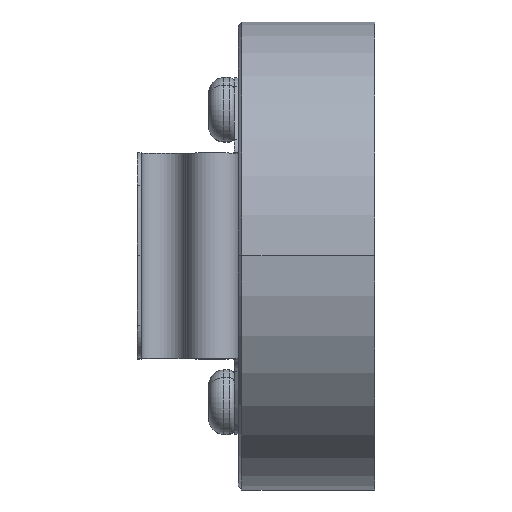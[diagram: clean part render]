
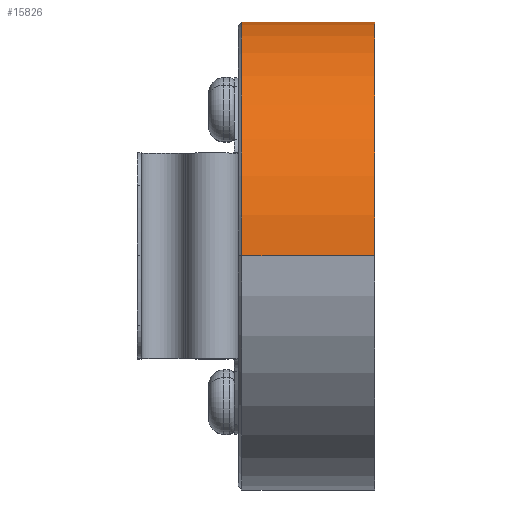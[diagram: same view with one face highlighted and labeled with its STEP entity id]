
A CAD part, top view. The second image highlights one B-rep face of the part: STEP entity #15826.
In plain terms, the highlighted cylindrical face has radius 18.25 mm (diameter 36.5 mm), a partial arc.
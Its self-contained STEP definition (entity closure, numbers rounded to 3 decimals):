
#159 = EDGE_LOOP ( 'NONE', ( #4861, #4624, #5661, #6935 ) ) ;
#211 = CARTESIAN_POINT ( 'NONE',  ( -11.65, 0., 18.25 ) ) ;
#1220 = AXIS2_PLACEMENT_3D ( 'NONE', #4666, #7525, #17581 ) ;
#2700 = EDGE_CURVE ( 'NONE', #9895, #17923, #11216, .T. ) ;
#3136 = CARTESIAN_POINT ( 'NONE',  ( -1.3, 0., -18.25 ) ) ;
#3644 = DIRECTION ( 'NONE',  ( 0., 0., 1. ) ) ;
#3746 = CARTESIAN_POINT ( 'NONE',  ( -1000., 0., 0. ) ) ;
#4119 = AXIS2_PLACEMENT_3D ( 'NONE', #3746, #15405, #9741 ) ;
#4624 = ORIENTED_EDGE ( 'NONE', *, *, #7588, .T. ) ;
#4666 = CARTESIAN_POINT ( 'NONE',  ( -1.3, 0., 0. ) ) ;
#4861 = ORIENTED_EDGE ( 'NONE', *, *, #8708, .T. ) ;
#4902 = CARTESIAN_POINT ( 'NONE',  ( -1.3, 0., 18.25 ) ) ;
#5341 = CARTESIAN_POINT ( 'NONE',  ( -1000., 0., 18.25 ) ) ;
#5529 = AXIS2_PLACEMENT_3D ( 'NONE', #18062, #10896, #3644 ) ;
#5661 = ORIENTED_EDGE ( 'NONE', *, *, #2700, .T. ) ;
#6147 = DIRECTION ( 'NONE',  ( -1., 0., 0. ) ) ;
#6935 = ORIENTED_EDGE ( 'NONE', *, *, #7862, .F. ) ;
#7525 = DIRECTION ( 'NONE',  ( -1., 0., 0. ) ) ;
#7588 = EDGE_CURVE ( 'NONE', #17705, #9895, #10023, .T. ) ;
#7862 = EDGE_CURVE ( 'NONE', #11511, #17923, #8890, .T. ) ;
#8708 = EDGE_CURVE ( 'NONE', #11511, #17705, #11564, .T. ) ;
#8890 = LINE ( 'NONE', #5341, #9786 ) ;
#9540 = FACE_OUTER_BOUND ( 'NONE', #159, .T. ) ;
#9741 = DIRECTION ( 'NONE',  ( 0., 0., 1. ) ) ;
#9786 = VECTOR ( 'NONE', #12532, 1000. ) ;
#9895 = VERTEX_POINT ( 'NONE', #10118 ) ;
#10023 = LINE ( 'NONE', #17624, #10927 ) ;
#10118 = CARTESIAN_POINT ( 'NONE',  ( -11.65, 0., -18.25 ) ) ;
#10896 = DIRECTION ( 'NONE',  ( 1., 0., 0. ) ) ;
#10927 = VECTOR ( 'NONE', #6147, 1000. ) ;
#11216 = CIRCLE ( 'NONE', #5529, 18.25 ) ;
#11511 = VERTEX_POINT ( 'NONE', #4902 ) ;
#11564 = CIRCLE ( 'NONE', #1220, 18.25 ) ;
#12532 = DIRECTION ( 'NONE',  ( -1., 0., 0. ) ) ;
#13341 = CYLINDRICAL_SURFACE ( 'NONE', #4119, 18.25 ) ;
#15405 = DIRECTION ( 'NONE',  ( -1., 0., 0. ) ) ;
#15826 = ADVANCED_FACE ( 'NONE', ( #9540 ), #13341, .T. ) ;
#17581 = DIRECTION ( 'NONE',  ( 0., 0., 1. ) ) ;
#17624 = CARTESIAN_POINT ( 'NONE',  ( -1000., 0., -18.25 ) ) ;
#17705 = VERTEX_POINT ( 'NONE', #3136 ) ;
#17923 = VERTEX_POINT ( 'NONE', #211 ) ;
#18062 = CARTESIAN_POINT ( 'NONE',  ( -11.65, 0., 0. ) ) ;
